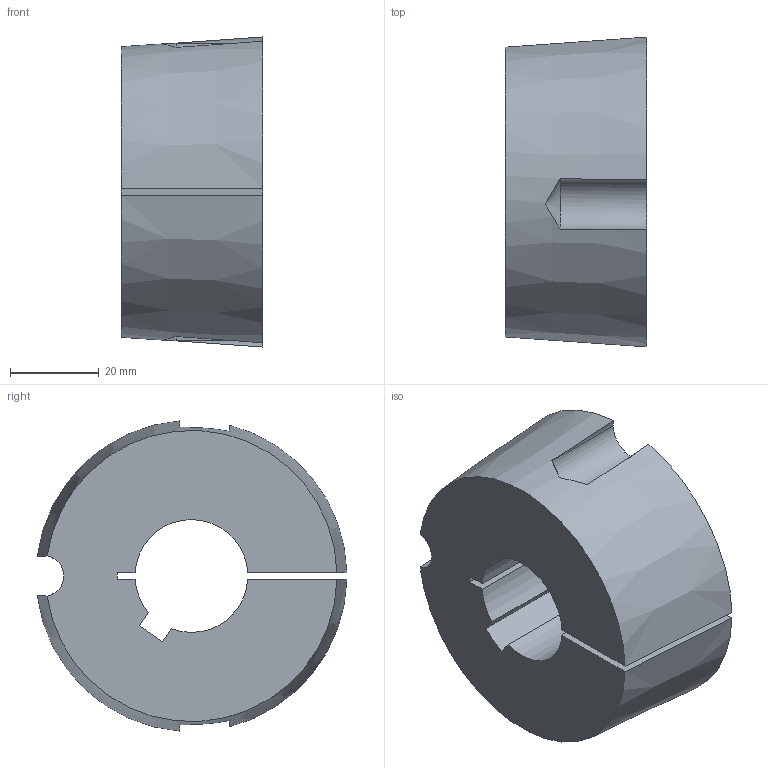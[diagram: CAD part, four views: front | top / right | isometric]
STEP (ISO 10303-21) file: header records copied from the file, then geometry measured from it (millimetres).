
FILE_DESCRIPTION( ( '' ), '1' );
FILE_NAME( 'C:/Users/StangenbergN/Desktop/06.02.2019_steps/6225052540.stp', '2019-02-06T20:00:58', ( '' ), ( '' ), ' ', ' ', ' ' );
FILE_SCHEMA( ( 'CONFIG_CONTROL_DESIGN' ) );
Length unit declared in the file: millimetre
Products named in the file (1): 1
Bounding box: 31.8 x 69.72 x 69.81 mm (x, y, z)
Volume: 93190.3 mm3; surface area: 17487.9 mm2
Topology: 1 solids, 1 shells, 28 faces, 76 edges, 50 vertices
Faces by surface type: cylinder 12, plane 10, cone 6
Entity records: 1106 total; most frequent: CARTESIAN_POINT 355, ORIENTED_EDGE 152, DIRECTION 148, EDGE_CURVE 76, AXIS2_PLACEMENT_3D 57, VERTEX_POINT 50, LINE 34, VECTOR 34
